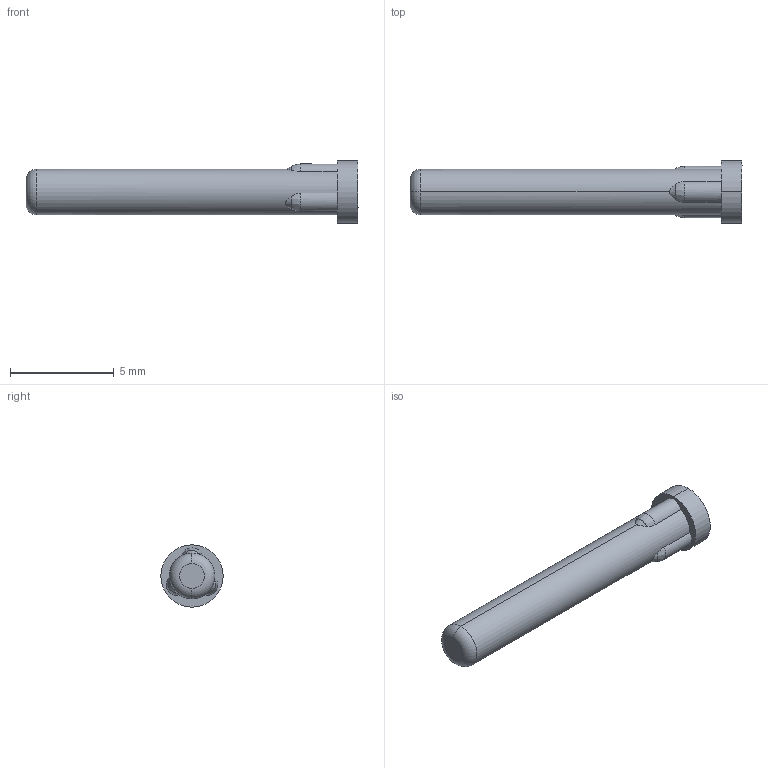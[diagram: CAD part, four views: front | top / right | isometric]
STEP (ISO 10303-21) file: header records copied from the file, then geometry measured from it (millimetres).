
FILE_DESCRIPTION(('Creo Elements/Direct Modeling STEP Export'),'2;1');
FILE_NAME('H05-0029-CL911-00_BB-022S.stp','2021-09-07T10:10:21',(''),(''),'Creo Elements/Direct Modeling STEP processor for AP214 (Solid Model)','Creo Elements/Direct Modeling 20.3B 05-Dec-2020 (C) Parametric Technology GmbH','');
FILE_SCHEMA(('AUTOMOTIVE_DESIGN { 1 0 10303 214 1 1 1 1 }'));
Length unit declared in the file: millimetre
Products named in the file (2): BB-022S
Assembly tree (1 placements, depth 2):
  BB-022S
    BB-022S
Bounding box: 16 x 3 x 3 mm (x, y, z)
Volume: 65 mm3; surface area: 127.1 mm2
Topology: 1 solids, 1 shells, 18 faces, 47 edges, 32 vertices
Faces by surface type: cylinder 7, plane 3, bspline 3, cone 3, torus 2
Entity records: 1336 total; most frequent: CARTESIAN_POINT 896, ORIENTED_EDGE 94, DIRECTION 66, EDGE_CURVE 47, VERTEX_POINT 32, AXIS2_PLACEMENT_3D 28, EDGE_LOOP 19, FACE_OUTER_BOUND 18
